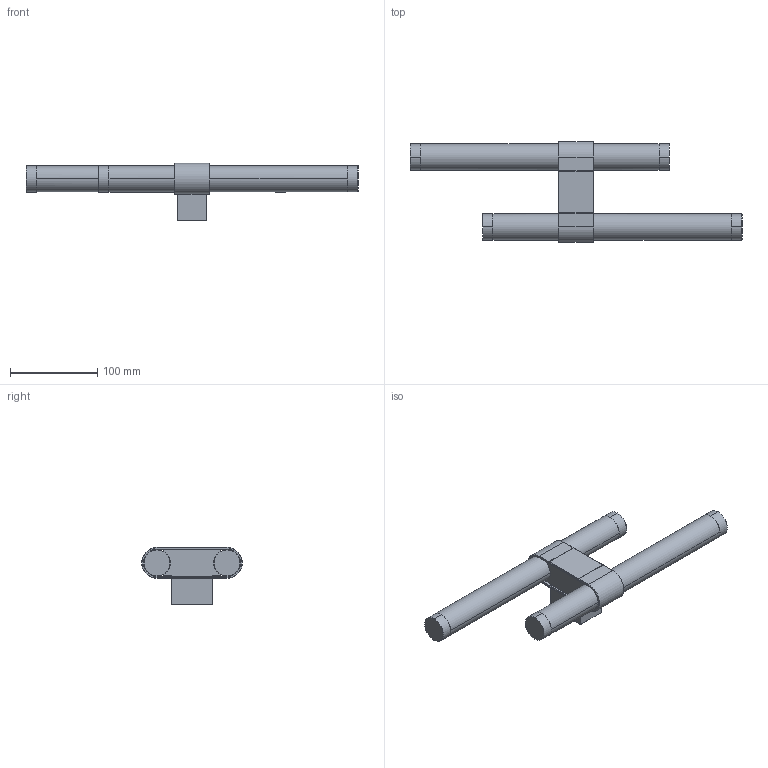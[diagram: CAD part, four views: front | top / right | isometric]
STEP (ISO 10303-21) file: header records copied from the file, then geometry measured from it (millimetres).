
FILE_DESCRIPTION (( 'STEP AP203' ), '1' );
FILE_NAME ('APPARA01MIXXXXX-PAG 188 CATALOGO 2025-PER 3D.STEP', '2026-07-08T10:24:36', ( '' ), ( '' ), 'SwSTEP 2.0', 'SolidWorks 2026', '' );
FILE_SCHEMA (( 'CONFIG_CONTROL_DESIGN' ));
Length unit declared in the file: millimetre
Products named in the file (1): APPARA01MIXXXXX-PAG 188 CATALOGO 2025-PER 3D
Bounding box: 380 x 115.49 x 65.5 mm (x, y, z)
Surface area: 90638.4 mm2 (no closed solid volume)
Topology: 0 solids, 16 shells, 211 faces, 938 edges, 712 vertices
Faces by surface type: cylinder 98, plane 57, torus 52, cone 4
Entity records: 10144 total; most frequent: CARTESIAN_POINT 2380, DIRECTION 1814, ORIENTED_EDGE 1258, EDGE_CURVE 938, VERTEX_POINT 712, AXIS2_PLACEMENT_3D 702, CIRCLE 490, LINE 410
